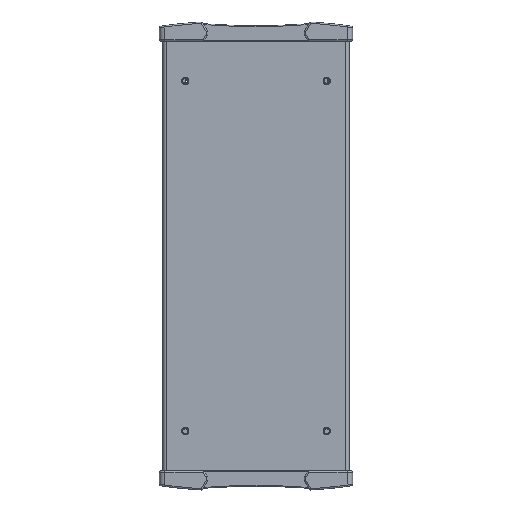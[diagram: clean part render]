
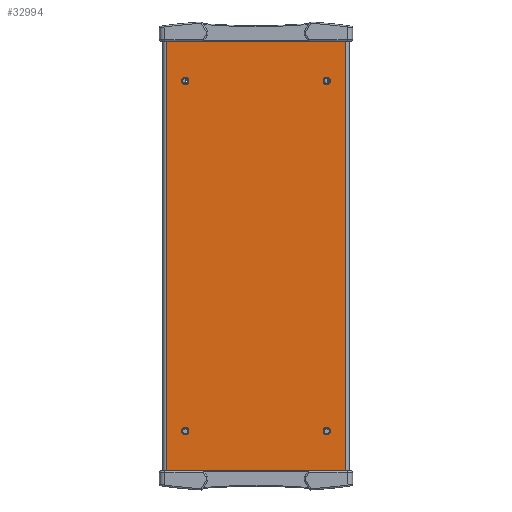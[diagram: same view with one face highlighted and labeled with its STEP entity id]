
A CAD part, front view. The second image highlights one B-rep face of the part: STEP entity #32994.
In plain terms, the highlighted planar face has unit normal (0, -1, 0).
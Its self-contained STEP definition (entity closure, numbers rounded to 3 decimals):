
#5493=DIRECTION('',(0.,0.,-1.));
#5494=VECTOR('',#5493,10.);
#5495=CARTESIAN_POINT('',(2.055,0.,5.));
#5496=LINE('',#5495,#5494);
#11403=CARTESIAN_POINT('',(1.615,0.,-4.));
#11404=DIRECTION('',(0.,1.,0.));
#11405=DIRECTION('',(1.,0.,0.));
#11406=AXIS2_PLACEMENT_3D('',#11403,#11404,#11405);
#11408=CARTESIAN_POINT('',(1.615,0.,-4.));
#11409=DIRECTION('',(0.,1.,0.));
#11410=DIRECTION('',(-1.,0.,0.));
#11411=AXIS2_PLACEMENT_3D('',#11408,#11409,#11410);
#11413=CARTESIAN_POINT('',(-1.615,0.,-4.));
#11414=DIRECTION('',(0.,1.,0.));
#11415=DIRECTION('',(1.,0.,0.));
#11416=AXIS2_PLACEMENT_3D('',#11413,#11414,#11415);
#11418=CARTESIAN_POINT('',(-1.615,0.,-4.));
#11419=DIRECTION('',(0.,1.,0.));
#11420=DIRECTION('',(-1.,0.,0.));
#11421=AXIS2_PLACEMENT_3D('',#11418,#11419,#11420);
#11423=CARTESIAN_POINT('',(1.615,0.,4.));
#11424=DIRECTION('',(0.,1.,0.));
#11425=DIRECTION('',(1.,0.,0.));
#11426=AXIS2_PLACEMENT_3D('',#11423,#11424,#11425);
#11428=CARTESIAN_POINT('',(1.615,0.,4.));
#11429=DIRECTION('',(0.,1.,0.));
#11430=DIRECTION('',(-1.,0.,0.));
#11431=AXIS2_PLACEMENT_3D('',#11428,#11429,#11430);
#11433=CARTESIAN_POINT('',(-1.615,0.,4.));
#11434=DIRECTION('',(0.,1.,0.));
#11435=DIRECTION('',(1.,0.,0.));
#11436=AXIS2_PLACEMENT_3D('',#11433,#11434,#11435);
#11438=CARTESIAN_POINT('',(-1.615,0.,4.));
#11439=DIRECTION('',(0.,1.,0.));
#11440=DIRECTION('',(-1.,0.,0.));
#11441=AXIS2_PLACEMENT_3D('',#11438,#11439,#11440);
#11447=DIRECTION('',(1.,0.,0.));
#11448=VECTOR('',#11447,4.11);
#11449=CARTESIAN_POINT('',(-2.055,0.,-5.));
#11450=LINE('',#11449,#11448);
#11465=DIRECTION('',(0.,0.,-1.));
#11466=VECTOR('',#11465,10.);
#11467=CARTESIAN_POINT('',(-2.055,0.,5.));
#11468=LINE('',#11467,#11466);
#11499=DIRECTION('',(1.,0.,0.));
#11500=VECTOR('',#11499,4.11);
#11501=CARTESIAN_POINT('',(-2.055,0.,5.));
#11502=LINE('',#11501,#11500);
#14427=CARTESIAN_POINT('',(2.055,0.,5.));
#14428=CARTESIAN_POINT('',(2.055,0.,-5.));
#14429=VERTEX_POINT('',#14427);
#14430=VERTEX_POINT('',#14428);
#14431=CARTESIAN_POINT('',(-2.055,0.,5.));
#14432=CARTESIAN_POINT('',(-2.055,0.,-5.));
#14433=VERTEX_POINT('',#14431);
#14434=VERTEX_POINT('',#14432);
#14435=CARTESIAN_POINT('',(-1.532,0.,4.));
#14436=CARTESIAN_POINT('',(-1.698,0.,4.));
#14437=VERTEX_POINT('',#14435);
#14438=VERTEX_POINT('',#14436);
#14439=CARTESIAN_POINT('',(1.698,0.,4.));
#14440=CARTESIAN_POINT('',(1.532,0.,4.));
#14441=VERTEX_POINT('',#14439);
#14442=VERTEX_POINT('',#14440);
#14443=CARTESIAN_POINT('',(-1.532,0.,-4.));
#14444=CARTESIAN_POINT('',(-1.698,0.,-4.));
#14445=VERTEX_POINT('',#14443);
#14446=VERTEX_POINT('',#14444);
#14447=CARTESIAN_POINT('',(1.698,0.,-4.));
#14448=CARTESIAN_POINT('',(1.532,0.,-4.));
#14449=VERTEX_POINT('',#14447);
#14450=VERTEX_POINT('',#14448);
#32958=CARTESIAN_POINT('',(-2.125,0.,-5.));
#32959=DIRECTION('',(0.,-1.,0.));
#32960=DIRECTION('',(1.,0.,0.));
#32961=AXIS2_PLACEMENT_3D('',#32958,#32959,#32960);
#32962=PLANE('',#32961);
#32963=ORIENTED_EDGE('',*,*,#25055,.T.);
#32965=ORIENTED_EDGE('',*,*,#32964,.F.);
#32967=ORIENTED_EDGE('',*,*,#32966,.F.);
#32969=ORIENTED_EDGE('',*,*,#32968,.T.);
#32970=EDGE_LOOP('',(#32963,#32965,#32967,#32969));
#32971=FACE_OUTER_BOUND('',#32970,.F.);
#32973=ORIENTED_EDGE('',*,*,#32972,.F.);
#32975=ORIENTED_EDGE('',*,*,#32974,.F.);
#32976=EDGE_LOOP('',(#32973,#32975));
#32977=FACE_BOUND('',#32976,.F.);
#32979=ORIENTED_EDGE('',*,*,#32978,.F.);
#32981=ORIENTED_EDGE('',*,*,#32980,.F.);
#32982=EDGE_LOOP('',(#32979,#32981));
#32983=FACE_BOUND('',#32982,.F.);
#32985=ORIENTED_EDGE('',*,*,#32984,.F.);
#32987=ORIENTED_EDGE('',*,*,#32986,.F.);
#32988=EDGE_LOOP('',(#32985,#32987));
#32989=FACE_BOUND('',#32988,.F.);
#32990=ORIENTED_EDGE('',*,*,#32938,.F.);
#32991=ORIENTED_EDGE('',*,*,#32952,.F.);
#32992=EDGE_LOOP('',(#32990,#32991));
#32993=FACE_BOUND('',#32992,.F.);
#32994=ADVANCED_FACE('',(#32971,#32977,#32983,#32989,#32993),#32962,.T.);
#11407=CIRCLE('',#11406,0.083);
#11412=CIRCLE('',#11411,0.083);
#11417=CIRCLE('',#11416,0.083);
#11422=CIRCLE('',#11421,0.083);
#11427=CIRCLE('',#11426,0.083);
#11432=CIRCLE('',#11431,0.083);
#11437=CIRCLE('',#11436,0.083);
#11442=CIRCLE('',#11441,0.083);
#25055=EDGE_CURVE('',#14429,#14430,#5496,.T.);
#32938=EDGE_CURVE('',#14437,#14438,#11437,.T.);
#32952=EDGE_CURVE('',#14438,#14437,#11442,.T.);
#32964=EDGE_CURVE('',#14434,#14430,#11450,.T.);
#32966=EDGE_CURVE('',#14433,#14434,#11468,.T.);
#32968=EDGE_CURVE('',#14433,#14429,#11502,.T.);
#32972=EDGE_CURVE('',#14449,#14450,#11407,.T.);
#32974=EDGE_CURVE('',#14450,#14449,#11412,.T.);
#32978=EDGE_CURVE('',#14445,#14446,#11417,.T.);
#32980=EDGE_CURVE('',#14446,#14445,#11422,.T.);
#32984=EDGE_CURVE('',#14441,#14442,#11427,.T.);
#32986=EDGE_CURVE('',#14442,#14441,#11432,.T.);
